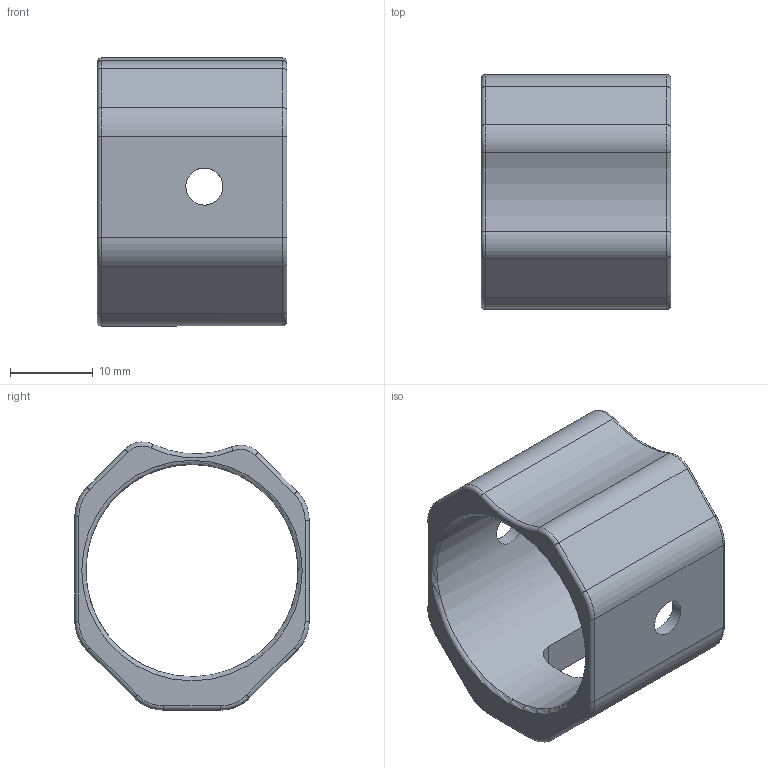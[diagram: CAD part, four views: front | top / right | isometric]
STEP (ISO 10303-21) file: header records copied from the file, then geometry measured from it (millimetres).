
FILE_DESCRIPTION(/* description */ ('Unknown'),/* implementation_level */ '2;1');
FILE_NAME(/* name */ 'Łoże Taktyczne Lite Bracket 2',/* time_stamp */ '2025-08-27T16:46:51+02:00',/* author */ ('Unknown'),/* organization */ ('Unknown'),/* preprocessor_version */ 'ST-DEVELOPER v16.7',/* originating_system */ 'DEX',/* authorisation */ $);
FILE_SCHEMA (('AUTOMOTIVE_DESIGN {1 0 10303 214 3 1 1}'));
Length unit declared in the file: millimetre
Products named in the file (1): Loze Taktyczne Lite Bracket 2
Bounding box: 23 x 28.4 x 32.47 mm (x, y, z)
Volume: 5459.8 mm3; surface area: 4517.7 mm2
Topology: 1 solids, 1 shells, 61 faces, 147 edges, 87 vertices
Faces by surface type: cylinder 29, torus 20, plane 12
Full cylindrical faces by diameter (mm): 4.5 x2, 25.7 x1
Entity records: 1797 total; most frequent: CARTESIAN_POINT 336, DIRECTION 329, ORIENTED_EDGE 280, EDGE_CURVE 140, AXIS2_PLACEMENT_3D 137, VERTEX_POINT 84, CIRCLE 75, EDGE_LOOP 70
